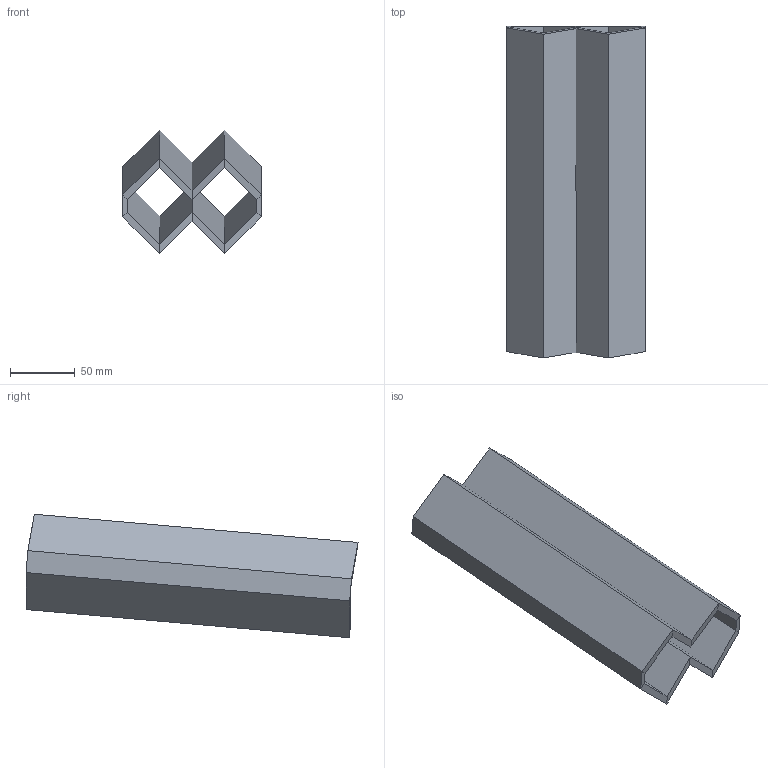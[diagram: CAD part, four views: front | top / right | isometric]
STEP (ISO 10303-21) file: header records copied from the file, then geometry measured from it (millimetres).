
FILE_DESCRIPTION(/* description */ (''),/* implementation_level */ '2;1');
FILE_NAME(/* name */ 'V-file.step',/* time_stamp */ '2026-02-21T19:11:10+05:30',/* author */ (''),/* organization */ (''),/* preprocessor_version */ 'ST-DEVELOPER v20.1',/* originating_system */ 'Autodesk Translation Framework v14.24.0.0',/* authorisation */ '');
FILE_SCHEMA (('AUTOMOTIVE_DESIGN { 1 0 10303 214 3 1 1 }'));
Length unit declared in the file: millimetre
Products named in the file (1): Hopper_withMounts
Bounding box: 107.06 x 256.42 x 95.44 mm (x, y, z)
Volume: 390714.1 mm3; surface area: 173446.7 mm2
Topology: 4 solids, 4 shells, 60 faces, 116 edges, 64 vertices
Faces by surface type: plane 60
Entity records: 1477 total; most frequent: CARTESIAN_POINT 241, DIRECTION 238, ORIENTED_EDGE 232, LINE 116, VECTOR 116, EDGE_CURVE 116, VERTEX_POINT 64, AXIS2_PLACEMENT_3D 61
